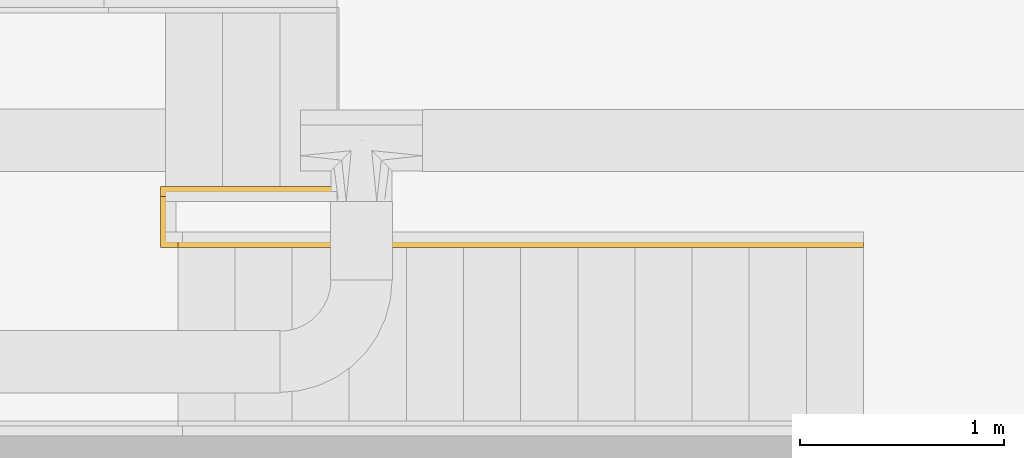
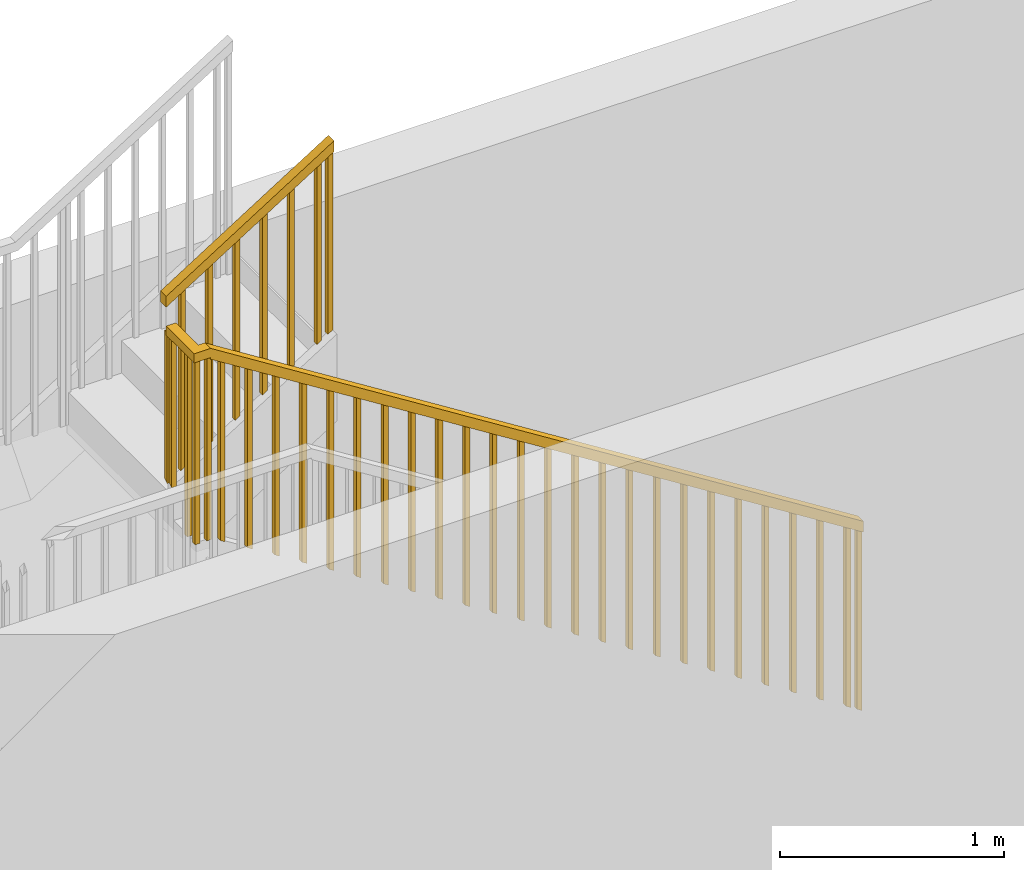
# One storey, part 2 of 12: 1 railing, 1 element without a shape of its own.
"""IFC2X3 building model written with IfcOpenShell, lengths in millimetres."""

from ifc_helpers import new_model, entity, si_unit, converted_unit, direction, frame, frame_2d, origin, origin_2d_with_axis, place, context, subcontext, project, spatial, polyline, rectangle, outline, extrude, material, type_object, element, aggregate, save


model = new_model("IFC2X3")

# Units and contexts
model_context = context("Model", 3, precision=0.01, world=origin(), true_north=direction((6.123031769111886e-17, 1.0)))
body_context = subcontext(model_context, "Body", "Model", "MODEL_VIEW")
ifc_project = project(units=[si_unit("LENGTHUNIT", "METRE", prefix="MILLI"), converted_unit("PLANEANGLEUNIT", "DEGREE", entity("IfcPlaneAngleMeasure", 0.017453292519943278), si_unit("PLANEANGLEUNIT", "RADIAN"), dimensions=[0, 0, 0, 0, 0, 0, 0]), si_unit("AREAUNIT", "SQUARE_METRE")], contexts=[model_context])

# Site, building, storey
site_placement = place(None, frame((7776.576483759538, 118.3519876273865, 0.0)))
site = spatial("IfcSite", under=ifc_project, at=site_placement, Name="Default", CompositionType="ELEMENT")
building_placement = place(site_placement, origin())
building = spatial("IfcBuilding", under=site, at=building_placement, Name="Bygning (endres i Project Information)", CompositionType="ELEMENT")
storey_placement = place(building_placement, frame((0.0, 0.0, 11000.0)))
storey = spatial("IfcBuildingStorey", under=building, at=storey_placement, Name="Plan U2 - Arbeid", CompositionType="ELEMENT", Elevation=10999.999999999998)

# Stair, railing
type_product = type_object("IfcTypeProduct", Name="Assembled Stair:Stairs 1")
stair_placement = place(storey_placement, origin())
stair = element("IfcStair", 1, at=stair_placement, inside=storey, type_object=type_product, Name="Assembled Stair:Stair", ObjectType="Assembled Stair:Stairs 1", ShapeType="HALF_TURN_STAIR")
ifc_material = material(Name="<Unnamed>")
railing_type = type_object("IfcRailingType", Name="Railing:1100mm", PredefinedType="NOTDEFINED")
railing_placement = place(stair_placement, origin())
railing = element("IfcRailing", 2, at=railing_placement, type_object=railing_type, material=ifc_material, Name="Railing:1100mm", ObjectType="Railing:1100mm", PredefinedType="NOTDEFINED", context=body_context, shape_type="SweptSolid", body=[
    extrude(outline(polyline([(-501.5097508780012, -12.499999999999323), (485.75344835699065, -12.499999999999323), (501.509750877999, 12.499999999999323), (-485.7534483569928, 12.499999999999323), (-501.5097508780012, -12.499999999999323)])), frame((15524.401374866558, 33335.47469491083, 3512.50285416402), z_axis=(0.0, 1.0, 0.0), x_axis=(0.0, 0.0, 1.0)), (0.0, 0.0, 1.0), 25.00000000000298),
    extrude(outline(polyline([(-501.509750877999, -12.499999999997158), (485.7534483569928, -12.499999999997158), (501.5097508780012, 12.50000000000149), (-485.75344835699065, 12.50000000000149), (-501.509750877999, -12.499999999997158)])), frame((15384.401374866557, 33335.47469491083, 3424.2675600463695), z_axis=(0.0, 1.0, 0.0), x_axis=(0.0, 0.0, 1.0)), (0.0, 0.0, 1.0), 25.00000000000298),
    extrude(outline(polyline([(-501.5097508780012, -12.499999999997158), (485.75344835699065, -12.499999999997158), (501.509750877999, 12.50000000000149), (-485.7534483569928, 12.50000000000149), (-501.5097508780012, -12.499999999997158)])), frame((15244.401374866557, 33335.47469491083, 3336.032265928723), z_axis=(0.0, 1.0, 0.0), x_axis=(0.0, 0.0, 1.0)), (0.0, 0.0, 1.0), 25.00000000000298),
    extrude(outline(polyline([(-501.5097508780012, -12.499999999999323), (485.75344835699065, -12.499999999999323), (501.509750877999, 12.499999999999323), (-485.7534483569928, 12.499999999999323), (-501.5097508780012, -12.499999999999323)])), frame((15104.40137486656, 33335.47469491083, 3247.796971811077), z_axis=(0.0, 1.0, 0.0), x_axis=(0.0, 0.0, 1.0)), (0.0, 0.0, 1.0), 25.00000000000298),
    extrude(outline(polyline([(-501.5097508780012, -12.499999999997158), (485.75344835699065, -12.499999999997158), (501.509750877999, 12.50000000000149), (-485.7534483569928, 12.50000000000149), (-501.5097508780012, -12.499999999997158)])), frame((14964.401374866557, 33335.47469491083, 3159.561677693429), z_axis=(0.0, 1.0, 0.0), x_axis=(0.0, 0.0, 1.0)), (0.0, 0.0, 1.0), 25.00000000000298),
    extrude(outline(polyline([(-501.509750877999, -12.50000000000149), (485.7534483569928, -12.50000000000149), (501.5097508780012, 12.499999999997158), (-485.75344835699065, 12.499999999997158), (-501.509750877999, -12.50000000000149)])), frame((14824.40137486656, 33335.47469491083, 3071.3263835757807), z_axis=(0.0, 1.0, 0.0), x_axis=(0.0, 0.0, 1.0)), (0.0, 0.0, 1.0), 25.00000000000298),
    extrude(outline(polyline([(-405.270255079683, -12.50000000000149), (413.14840634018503, -12.50000000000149), (397.3921038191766, 12.499999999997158), (-405.270255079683, 12.50000000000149), (-405.270255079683, -12.50000000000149)])), frame((14741.90137486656, 33308.70250068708, 2938.8473919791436), z_axis=(1.0, 0.0, 0.0), x_axis=(0.0, 0.0, -1.0)), (0.0, 0.0, 1.0), 24.999999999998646),
    extrude(rectangle(XDim=24.999999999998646, YDim=25.000000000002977, at=frame_2d((0.0, 4.331646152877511e-12), x_axis=(1.0, 0.0))), frame((14754.401374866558, 33168.70250068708, 2342.705521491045)), (0.0, 0.0, 1.0), 1001.4121255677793),
    extrude(outline(polyline([(-485.7534483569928, -12.499999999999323), (501.509750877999, -12.499999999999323), (485.75344835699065, 12.50000000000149), (-501.5097508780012, 12.499999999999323), (-485.7534483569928, -12.499999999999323)])), frame((14884.0013748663, 33086.20250068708, 2806.368400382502), z_axis=(0.0, 1.0, 0.0), x_axis=(0.0, 0.0, -1.0)), (0.0, 0.0, 1.0), 25.00000000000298),
    extrude(outline(polyline([(-485.7534483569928, -12.499999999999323), (501.509750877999, -12.499999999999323), (485.75344835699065, 12.50000000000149), (-501.5097508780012, 12.499999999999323), (-485.7534483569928, -12.499999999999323)])), frame((15024.001374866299, 33086.20250068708, 2718.133106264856), z_axis=(0.0, 1.0, 0.0), x_axis=(0.0, 0.0, -1.0)), (0.0, 0.0, 1.0), 25.00000000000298),
    extrude(outline(polyline([(-485.75344835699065, -12.499999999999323), (501.5097508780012, -12.499999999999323), (485.7534483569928, 12.50000000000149), (-501.509750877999, 12.499999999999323), (-485.75344835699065, -12.499999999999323)])), frame((15164.001374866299, 33086.20250068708, 2629.89781214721), z_axis=(0.0, 1.0, 0.0), x_axis=(0.0, 0.0, -1.0)), (0.0, 0.0, 1.0), 25.00000000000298),
    extrude(outline(polyline([(-485.75344835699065, -12.499999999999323), (501.5097508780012, -12.499999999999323), (485.7534483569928, 12.50000000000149), (-501.509750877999, 12.499999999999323), (-485.75344835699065, -12.499999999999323)])), frame((15304.0013748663, 33086.20250068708, 2541.6625180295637), z_axis=(0.0, 1.0, 0.0), x_axis=(0.0, 0.0, -1.0)), (0.0, 0.0, 1.0), 25.00000000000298),
    extrude(outline(polyline([(-485.7534483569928, -12.499999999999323), (501.509750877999, -12.499999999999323), (485.75344835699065, 12.50000000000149), (-501.5097508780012, 12.499999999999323), (-485.7534483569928, -12.499999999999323)])), frame((15444.001374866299, 33086.202500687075, 2453.4272239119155), z_axis=(0.0, 1.0, 0.0), x_axis=(0.0, 0.0, -1.0)), (0.0, 0.0, 1.0), 25.00000000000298),
    extrude(outline(polyline([(-485.7534483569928, -12.499999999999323), (501.509750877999, -12.499999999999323), (485.75344835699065, 12.50000000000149), (-501.5097508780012, 12.499999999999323), (-485.7534483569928, -12.499999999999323)])), frame((15584.001374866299, 33086.202500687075, 2365.1919297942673), z_axis=(0.0, 1.0, 0.0), x_axis=(0.0, 0.0, -1.0)), (0.0, 0.0, 1.0), 25.00000000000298),
    extrude(outline(polyline([(-485.75344835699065, -12.499999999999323), (501.5097508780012, -12.499999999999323), (485.7534483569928, 12.50000000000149), (-501.509750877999, 12.499999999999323), (-485.75344835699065, -12.499999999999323)])), frame((15724.001374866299, 33086.202500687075, 2276.9566356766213), z_axis=(0.0, 1.0, 0.0), x_axis=(0.0, 0.0, -1.0)), (0.0, 0.0, 1.0), 25.00000000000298),
    extrude(outline(polyline([(-485.75344835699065, -12.499999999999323), (501.5097508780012, -12.499999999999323), (485.7534483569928, 12.50000000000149), (-501.509750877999, 12.499999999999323), (-485.75344835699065, -12.499999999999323)])), frame((15864.001374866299, 33086.202500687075, 2188.721341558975), z_axis=(0.0, 1.0, 0.0), x_axis=(0.0, 0.0, -1.0)), (0.0, 0.0, 1.0), 25.00000000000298),
    extrude(outline(polyline([(-485.75344835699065, -12.499999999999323), (501.5097508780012, -12.499999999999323), (485.7534483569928, 12.50000000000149), (-501.509750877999, 12.499999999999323), (-485.75344835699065, -12.499999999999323)])), frame((16004.001374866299, 33086.202500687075, 2100.486047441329), z_axis=(0.0, 1.0, 0.0), x_axis=(0.0, 0.0, -1.0)), (0.0, 0.0, 1.0), 25.00000000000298),
    extrude(outline(polyline([(-485.7534483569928, -12.499999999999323), (501.509750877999, -12.499999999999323), (485.75344835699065, 12.50000000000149), (-501.5097508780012, 12.499999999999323), (-485.7534483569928, -12.499999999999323)])), frame((16144.001374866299, 33086.202500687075, 2012.2507533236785), z_axis=(0.0, 1.0, 0.0), x_axis=(0.0, 0.0, -1.0)), (0.0, 0.0, 1.0), 25.00000000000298),
    extrude(outline(polyline([(-485.75344835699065, -12.499999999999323), (501.5097508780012, -12.499999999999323), (485.7534483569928, 12.50000000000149), (-501.509750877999, 12.499999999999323), (-485.75344835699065, -12.499999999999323)])), frame((16284.0013748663, 33086.202500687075, 1924.0154592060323), z_axis=(0.0, 1.0, 0.0), x_axis=(0.0, 0.0, -1.0)), (0.0, 0.0, 1.0), 25.00000000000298),
    extrude(outline(polyline([(-485.75344835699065, -12.499999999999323), (501.5097508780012, -12.499999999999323), (485.7534483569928, 12.50000000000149), (-501.509750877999, 12.499999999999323), (-485.75344835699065, -12.499999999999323)])), frame((16424.001374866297, 33086.202500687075, 1835.7801650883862), z_axis=(0.0, 1.0, 0.0), x_axis=(0.0, 0.0, -1.0)), (0.0, 0.0, 1.0), 25.00000000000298),
    extrude(outline(polyline([(-485.75344835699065, -12.499999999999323), (501.5097508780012, -12.499999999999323), (485.7534483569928, 12.50000000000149), (-501.509750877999, 12.499999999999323), (-485.75344835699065, -12.499999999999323)])), frame((16564.0013748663, 33086.202500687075, 1747.5448709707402), z_axis=(0.0, 1.0, 0.0), x_axis=(0.0, 0.0, -1.0)), (0.0, 0.0, 1.0), 25.00000000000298),
    extrude(outline(polyline([(-485.7534483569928, -12.50000000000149), (501.509750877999, -12.50000000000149), (485.75344835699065, 12.499999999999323), (-501.5097508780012, 12.499999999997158), (-485.7534483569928, -12.50000000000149)])), frame((16704.001374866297, 33086.202500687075, 1659.3095768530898), z_axis=(0.0, 1.0, 0.0), x_axis=(0.0, 0.0, -1.0)), (0.0, 0.0, 1.0), 25.00000000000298),
    extrude(outline(polyline([(-485.7534483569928, -12.499999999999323), (501.509750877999, -12.499999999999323), (485.75344835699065, 12.50000000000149), (-501.5097508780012, 12.499999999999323), (-485.7534483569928, -12.499999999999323)])), frame((16844.001374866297, 33086.202500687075, 1571.0742827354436), z_axis=(0.0, 1.0, 0.0), x_axis=(0.0, 0.0, -1.0)), (0.0, 0.0, 1.0), 25.00000000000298),
    extrude(outline(polyline([(-485.75344835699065, -12.499999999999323), (501.5097508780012, -12.499999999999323), (485.7534483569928, 12.50000000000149), (-501.509750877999, 12.499999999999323), (-485.75344835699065, -12.499999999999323)])), frame((16984.0013748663, 33086.202500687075, 1482.8389886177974), z_axis=(0.0, 1.0, 0.0), x_axis=(0.0, 0.0, -1.0)), (0.0, 0.0, 1.0), 25.00000000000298),
    extrude(outline(polyline([(-485.75344835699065, -12.499999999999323), (501.5097508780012, -12.499999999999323), (485.7534483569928, 12.50000000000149), (-501.509750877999, 12.499999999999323), (-485.75344835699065, -12.499999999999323)])), frame((17124.0013748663, 33086.202500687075, 1394.6036945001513), z_axis=(0.0, 1.0, 0.0), x_axis=(0.0, 0.0, -1.0)), (0.0, 0.0, 1.0), 25.00000000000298),
    extrude(outline(polyline([(-485.7534483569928, -12.499999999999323), (501.509750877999, -12.499999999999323), (485.75344835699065, 12.50000000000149), (-501.5097508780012, 12.499999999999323), (-485.7534483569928, -12.499999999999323)])), frame((17264.0013748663, 33086.202500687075, 1306.368400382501), z_axis=(0.0, 1.0, 0.0), x_axis=(0.0, 0.0, -1.0)), (0.0, 0.0, 1.0), 25.00000000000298),
    extrude(outline(polyline([(-485.7534483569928, -12.499999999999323), (501.509750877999, -12.499999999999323), (485.75344835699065, 12.50000000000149), (-501.5097508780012, 12.499999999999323), (-485.7534483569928, -12.499999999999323)])), frame((17404.0013748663, 33086.202500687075, 1218.1331062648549), z_axis=(0.0, 1.0, 0.0), x_axis=(0.0, 0.0, -1.0)), (0.0, 0.0, 1.0), 25.00000000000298),
    extrude(outline(polyline([(-485.7534483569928, -12.50000000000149), (501.509750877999, -12.50000000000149), (485.75344835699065, 12.499999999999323), (-501.5097508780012, 12.499999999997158), (-485.7534483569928, -12.50000000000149)])), frame((17544.001374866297, 33086.202500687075, 1129.8978121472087), z_axis=(0.0, 1.0, 0.0), x_axis=(0.0, 0.0, -1.0)), (0.0, 0.0, 1.0), 25.00000000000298),
    extrude(outline(polyline([(-485.75344835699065, -12.499999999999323), (501.5097508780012, -12.499999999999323), (485.7534483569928, 12.50000000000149), (-501.509750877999, 12.499999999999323), (-485.75344835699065, -12.499999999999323)])), frame((17684.0013748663, 33086.20250068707, 1041.6625180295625), z_axis=(0.0, 1.0, 0.0), x_axis=(0.0, 0.0, -1.0)), (0.0, 0.0, 1.0), 25.00000000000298),
    extrude(outline(polyline([(-485.75344835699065, -12.499999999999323), (501.5097508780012, -12.499999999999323), (485.7534483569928, 12.50000000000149), (-501.509750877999, 12.499999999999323), (-485.75344835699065, -12.499999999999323)])), frame((17824.001374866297, 33086.20250068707, 953.4272239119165), z_axis=(0.0, 1.0, 0.0), x_axis=(0.0, 0.0, -1.0)), (0.0, 0.0, 1.0), 25.00000000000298),
    extrude(outline(polyline([(-485.7534483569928, -12.499999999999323), (501.509750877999, -12.499999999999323), (485.75344835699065, 12.50000000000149), (-501.5097508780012, 12.499999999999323), (-485.7534483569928, -12.499999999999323)])), frame((17964.0013748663, 33086.20250068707, 865.1919297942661), z_axis=(0.0, 1.0, 0.0), x_axis=(0.0, 0.0, -1.0)), (0.0, 0.0, 1.0), 25.00000000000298),
    extrude(outline(polyline([(-485.7534483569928, -12.499999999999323), (501.509750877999, -12.499999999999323), (485.75344835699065, 12.50000000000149), (-501.5097508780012, 12.499999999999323), (-485.7534483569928, -12.499999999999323)])), frame((18104.0013748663, 33086.20250068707, 776.95663567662), z_axis=(0.0, 1.0, 0.0), x_axis=(0.0, 0.0, -1.0)), (0.0, 0.0, 1.0), 25.00000000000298),
    extrude(outline(polyline([(-405.270255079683, -12.50000000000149), (413.14840634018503, -12.50000000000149), (397.3921038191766, 12.499999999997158), (-405.270255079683, 12.50000000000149), (-405.270255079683, -12.50000000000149)])), frame((14741.90137486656, 33347.97469491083, 2938.8473919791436), z_axis=(1.0, 0.0, 0.0), x_axis=(0.0, 0.0, -1.0)), (0.0, 0.0, 1.0), 24.999999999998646),
    extrude(rectangle(XDim=25.00000000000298, YDim=24.999999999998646, at=origin_2d_with_axis()), frame((14754.401374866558, 33098.70250068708, 2342.705521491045), z_axis=(0.0, 0.0, 1.0), x_axis=(0.0, 1.0, 0.0)), (0.0, 0.0, 1.0), 1001.4121255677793),
    extrude(outline(polyline([(-492.82791152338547, -12.499999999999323), (500.7060627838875, -12.499999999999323), (500.7060627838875, 12.50000000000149), (-508.5842140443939, 12.499999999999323), (-492.82791152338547, -12.499999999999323)])), frame((14814.001374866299, 33086.20250068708, 2843.4115842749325), z_axis=(0.0, 1.0, 0.0), x_axis=(0.0, 0.0, -1.0)), (0.0, 0.0, 1.0), 25.00000000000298),
    extrude(outline(polyline([(-501.509750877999, -12.499999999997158), (485.7534483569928, -12.499999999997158), (501.5097508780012, 12.50000000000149), (-485.75344835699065, 12.50000000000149), (-501.509750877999, -12.499999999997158)])), frame((15581.501374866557, 33335.47469491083, 3548.4902491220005), z_axis=(0.0, 1.0, 0.0), x_axis=(0.0, 0.0, 1.0)), (0.0, 0.0, 1.0), 25.00000000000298),
    extrude(outline(polyline([(-485.7534483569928, -12.499999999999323), (501.509750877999, -12.499999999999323), (485.75344835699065, 12.50000000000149), (-501.5097508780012, 12.499999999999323), (-485.7534483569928, -12.499999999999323)])), frame((18161.5013748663, 33086.20250068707, 740.7171398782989), z_axis=(0.0, 1.0, 0.0), x_axis=(0.0, 0.0, -1.0)), (0.0, 0.0, 1.0), 25.00000000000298),
    extrude(outline(polyline([(-2001.5828977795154, -25.0), (1970.070292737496, -25.0), (2001.5828977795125, 25.0), (-1970.070292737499, 25.0), (-2001.5828977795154, -25.0)])), frame((16494.001374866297, 33073.702500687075, 2305.743126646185), z_axis=(0.0, 1.0, 0.0), x_axis=(-0.8459953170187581, 0.0, 0.5331903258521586)), (0.0, 0.0, 1.0), 49.99999999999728),
    extrude(rectangle(XDim=34.59999999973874, YDim=50.00000000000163, at=frame_2d((-1.0835776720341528e-12, -6.497913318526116e-12), x_axis=(1.0, 0.0))), frame((14796.701374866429, 33098.702500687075, 3344.1176470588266), z_axis=(0.0, 0.0, 1.0), x_axis=(-1.0, 0.0, 0.0)), (0.0, 0.0, 1.0), 49.99999999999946),
    extrude(rectangle(XDim=249.27219422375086, YDim=49.99999999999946, at=frame_2d((4.334310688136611e-12, 1.0835776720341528e-12), x_axis=(1.0, 0.0))), frame((14754.401374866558, 33198.33859779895, 3344.1176470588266), z_axis=(0.0, 0.0, 1.0), x_axis=(0.0, 1.0, 0.0)), (0.0, 0.0, 1.0), 49.99999999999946),
    extrude(outline(polyline([(-495.2394338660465, -25.0), (526.7520389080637, -25.0), (495.23943386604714, 25.0), (-526.752038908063, 25.0), (-495.2394338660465, -25.0)])), frame((15161.701374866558, 33322.97469491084, 3797.9910258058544), z_axis=(0.0, 1.0, 0.0), x_axis=(0.8459953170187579, 0.0, 0.5331903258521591)), (0.0, 0.0, 1.0), 49.99999999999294),
])
aggregate(stair, [railing])

save(model, "model.ifc")
